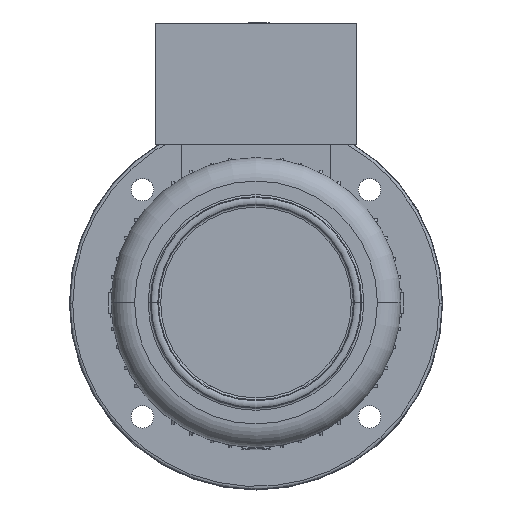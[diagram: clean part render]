
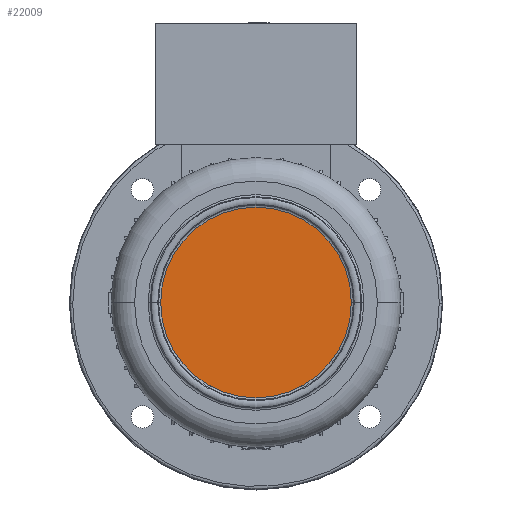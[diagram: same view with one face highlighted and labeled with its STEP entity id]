
A CAD part, top view. The second image highlights one B-rep face of the part: STEP entity #22009.
In plain terms, the highlighted planar face has unit normal (0, 0, 1).
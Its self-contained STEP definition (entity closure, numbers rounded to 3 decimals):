
#2521 = AXIS2_PLACEMENT_3D ( 'NONE', #17738, #4455, #11740 ) ;
#2754 = EDGE_CURVE ( 'NONE', #16095, #6284, #18190, .T. ) ;
#2777 = DIRECTION ( 'NONE',  ( 0., 0., -1. ) ) ;
#3719 = CARTESIAN_POINT ( 'NONE',  ( 0., 63.81, 177.75 ) ) ;
#4199 = EDGE_CURVE ( 'NONE', #6284, #16095, #17205, .T. ) ;
#4455 = DIRECTION ( 'NONE',  ( 0., 0., -1. ) ) ;
#5532 = DIRECTION ( 'NONE',  ( 0., 0., 1. ) ) ;
#6284 = VERTEX_POINT ( 'NONE', #10922 ) ;
#7249 = PLANE ( 'NONE',  #15438 ) ;
#9353 = DIRECTION ( 'NONE',  ( 1., 0., 0. ) ) ;
#10314 = DIRECTION ( 'NONE',  ( -1., 0., 0. ) ) ;
#10922 = CARTESIAN_POINT ( 'NONE',  ( -63.81, 0., 177.75 ) ) ;
#11109 = EDGE_LOOP ( 'NONE', ( #11355, #11635 ) ) ;
#11355 = ORIENTED_EDGE ( 'NONE', *, *, #4199, .F. ) ;
#11635 = ORIENTED_EDGE ( 'NONE', *, *, #2754, .F. ) ;
#11740 = DIRECTION ( 'NONE',  ( -1., 0., 0. ) ) ;
#15438 = AXIS2_PLACEMENT_3D ( 'NONE', #3719, #5532, #9353 ) ;
#16095 = VERTEX_POINT ( 'NONE', #17927 ) ;
#17205 = CIRCLE ( 'NONE', #19449, 63.81 ) ;
#17738 = CARTESIAN_POINT ( 'NONE',  ( 0., 0., 177.75 ) ) ;
#17927 = CARTESIAN_POINT ( 'NONE',  ( 63.81, 0., 177.75 ) ) ;
#18190 = CIRCLE ( 'NONE', #2521, 63.81 ) ;
#19449 = AXIS2_PLACEMENT_3D ( 'NONE', #22256, #2777, #10314 ) ;
#20444 = FACE_OUTER_BOUND ( 'NONE', #11109, .T. ) ;
#22009 = ADVANCED_FACE ( 'NONE', ( #20444 ), #7249, .T. ) ;
#22256 = CARTESIAN_POINT ( 'NONE',  ( 0., 0., 177.75 ) ) ;
